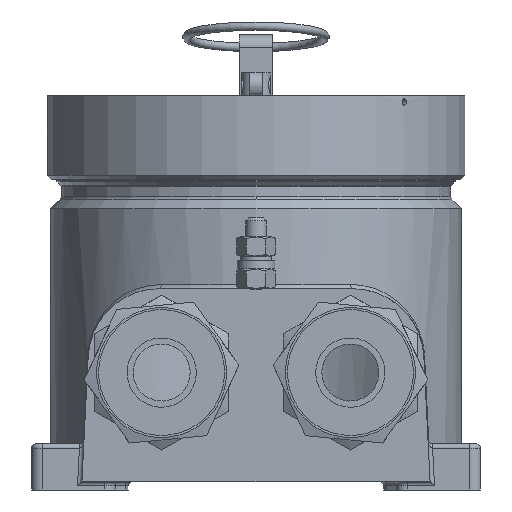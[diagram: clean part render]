
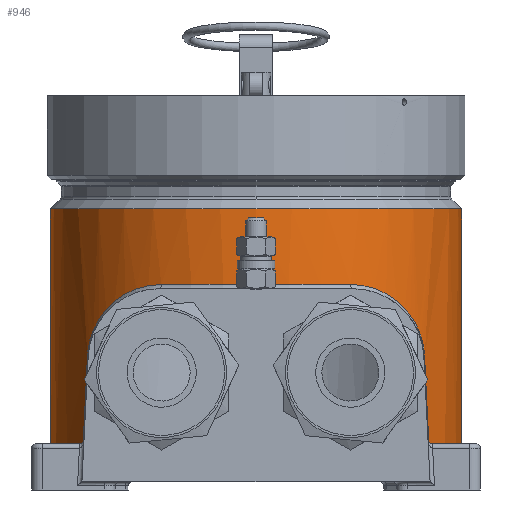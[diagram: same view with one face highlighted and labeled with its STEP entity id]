
A CAD part, left-side view. The second image highlights one B-rep face of the part: STEP entity #946.
In plain terms, the highlighted cylindrical face has radius 49 mm (diameter 98 mm), a full revolution.
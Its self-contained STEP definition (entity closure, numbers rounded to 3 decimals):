
#946=ADVANCED_FACE('',(#16318,#16320),#16322,.T.);
#16318=FACE_BOUND('',#16319,.T.);
#16319=EDGE_LOOP('',(#28817,#28818,#28819,#28820,#28821,#28822,#28823,#28824,#28825,
#28826,#28827));
#16320=FACE_OUTER_BOUND('',#16321,.T.);
#16321=EDGE_LOOP('',(#28828));
#16322=CYLINDRICAL_SURFACE('',#16323,49.);
#16323=AXIS2_PLACEMENT_3D('',#16324,#16325,#16326);
#16324=CARTESIAN_POINT('',(0.,0.,8.));
#16325=DIRECTION('',(0.,0.,1.));
#16326=DIRECTION('',(-1.,0.,0.));
#28817=ORIENTED_EDGE('',*,*,#37600,.F.);
#28818=ORIENTED_EDGE('',*,*,#37601,.T.);
#28819=ORIENTED_EDGE('',*,*,#37602,.F.);
#28820=ORIENTED_EDGE('',*,*,#37372,.F.);
#28821=ORIENTED_EDGE('',*,*,#37487,.F.);
#28822=ORIENTED_EDGE('',*,*,#37486,.F.);
#28823=ORIENTED_EDGE('',*,*,#37483,.F.);
#28824=ORIENTED_EDGE('',*,*,#37603,.F.);
#28825=ORIENTED_EDGE('',*,*,#37604,.T.);
#28826=ORIENTED_EDGE('',*,*,#37605,.F.);
#28827=ORIENTED_EDGE('',*,*,#37606,.T.);
#28828=ORIENTED_EDGE('',*,*,#37607,.T.);
#37372=EDGE_CURVE('',#41911,#41912,#41913,.T.);
#37483=EDGE_CURVE('',#42096,#42097,#42098,.T.);
#37486=EDGE_CURVE('',#42097,#42101,#42102,.F.);
#37487=EDGE_CURVE('',#42101,#41911,#42103,.F.);
#37600=EDGE_CURVE('',#42293,#42294,#42295,.F.);
#37601=EDGE_CURVE('',#42293,#42296,#42297,.T.);
#37602=EDGE_CURVE('',#41912,#42296,#42298,.F.);
#37603=EDGE_CURVE('',#42299,#42096,#42300,.F.);
#37604=EDGE_CURVE('',#42299,#42301,#42302,.T.);
#37605=EDGE_CURVE('',#42303,#42301,#42304,.F.);
#37606=EDGE_CURVE('',#42303,#42294,#42305,.T.);
#37607=EDGE_CURVE('',#42306,#42306,#42307,.F.);
#41911=VERTEX_POINT('',#50082);
#41912=VERTEX_POINT('',#50083);
#41913=B_SPLINE_CURVE_WITH_KNOTS('',3,
(#50084,#50085,#50086,#50087,#50088,#50089,#50090,#50091,#50092,#50093,#50094,#50095,
#50096,#50097,#50098,#50099,#50100,#50101,#50102,#50103,#50104),
.UNSPECIFIED.,.F.,.F.,
(4,1,1,1,1,1,1,1,1,1,1,1,1,1,1,1,1,1,4),
(0.,0.091,0.177,0.256,0.326,0.392,
0.455,0.516,0.573,0.628,0.678,
0.724,0.769,0.814,0.856,0.896,
0.938,0.972,1.),
.UNSPECIFIED.);
#42096=VERTEX_POINT('',#51006);
#42097=VERTEX_POINT('',#51007);
#42098=B_SPLINE_CURVE_WITH_KNOTS('',3,
(#51008,#51009,#51010,#51011,#51012,#51013,#51014,#51015,#51016,#51017,#51018,#51019,
#51020,#51021,#51022,#51023,#51024,#51025,#51026,#51027,#51028,#51029,#51030,#51031,
#51032,#51033,#51034),
.UNSPECIFIED.,.F.,.F.,
(4,1,1,1,1,1,1,1,1,1,1,1,1,1,1,1,1,1,1,1,1,1,1,1,4),
(0.,0.009,0.018,0.026,0.034,
0.045,0.061,0.084,0.114,0.152,
0.192,0.237,0.283,0.332,0.386,
0.442,0.504,0.569,0.637,0.708,
0.779,0.846,0.919,0.969,1.),
.UNSPECIFIED.);
#42101=VERTEX_POINT('',#51046);
#42102=CIRCLE('',#51047,49.);
#42103=CIRCLE('',#51051,49.);
#42293=VERTEX_POINT('',#51742);
#42294=VERTEX_POINT('',#51743);
#42295=CIRCLE('',#51744,49.);
#42296=VERTEX_POINT('',#51748);
#42297=CIRCLE('',#51749,49.);
#42298=(BOUNDED_CURVE()B_SPLINE_CURVE(3,
(#51753,#51754,#51755,#51756),
.UNSPECIFIED.,.F.,.F.)B_SPLINE_CURVE_WITH_KNOTS((4,4),
(0.,1.),
.UNSPECIFIED.)CURVE()GEOMETRIC_REPRESENTATION_ITEM()RATIONAL_B_SPLINE_CURVE((1.,
1.,1.,1.))REPRESENTATION_ITEM(''));
#42299=VERTEX_POINT('',#51757);
#42300=(BOUNDED_CURVE()B_SPLINE_CURVE(3,
(#51758,#51759,#51760,#51761),
.UNSPECIFIED.,.F.,.F.)B_SPLINE_CURVE_WITH_KNOTS((4,4),
(0.,1.),
.UNSPECIFIED.)CURVE()GEOMETRIC_REPRESENTATION_ITEM()RATIONAL_B_SPLINE_CURVE((1.,
1.,1.,1.))REPRESENTATION_ITEM(''));
#42301=VERTEX_POINT('',#51762);
#42302=CIRCLE('',#51763,49.);
#42303=VERTEX_POINT('',#51767);
#42304=CIRCLE('',#51768,49.);
#42305=CIRCLE('',#51772,49.);
#42306=VERTEX_POINT('',#51776);
#42307=CIRCLE('',#51777,49.);
#50082=CARTESIAN_POINT('',(-43.493,22.568,47.));
#50083=CARTESIAN_POINT('',(-28.037,40.186,29.899));
#50084=CARTESIAN_POINT('',(-43.493,22.568,47.));
#50085=CARTESIAN_POINT('',(-43.054,23.416,47.));
#50086=CARTESIAN_POINT('',(-42.151,25.037,46.879));
#50087=CARTESIAN_POINT('',(-40.74,27.264,46.397));
#50088=CARTESIAN_POINT('',(-39.377,29.19,45.722));
#50089=CARTESIAN_POINT('',(-38.089,30.846,44.927));
#50090=CARTESIAN_POINT('',(-36.872,32.289,44.051));
#50091=CARTESIAN_POINT('',(-35.702,33.576,43.095));
#50092=CARTESIAN_POINT('',(-34.586,34.721,42.076));
#50093=CARTESIAN_POINT('',(-33.534,35.737,41.006));
#50094=CARTESIAN_POINT('',(-32.569,36.617,39.915));
#50095=CARTESIAN_POINT('',(-31.705,37.365,38.827));
#50096=CARTESIAN_POINT('',(-30.93,38.009,37.734));
#50097=CARTESIAN_POINT('',(-30.23,38.566,36.618));
#50098=CARTESIAN_POINT('',(-29.605,39.048,35.461));
#50099=CARTESIAN_POINT('',(-29.076,39.443,34.293));
#50100=CARTESIAN_POINT('',(-28.639,39.76,33.094));
#50101=CARTESIAN_POINT('',(-28.322,39.986,31.927));
#50102=CARTESIAN_POINT('',(-28.127,40.124,30.85));
#50103=CARTESIAN_POINT('',(-28.057,40.172,30.193));
#50104=CARTESIAN_POINT('',(-28.037,40.186,29.899));
#51006=CARTESIAN_POINT('',(-28.037,-40.186,29.899));
#51007=CARTESIAN_POINT('',(-43.493,-22.568,47.));
#51008=CARTESIAN_POINT('',(-28.037,-40.186,29.899));
#51009=CARTESIAN_POINT('',(-28.047,-40.179,29.999));
#51010=CARTESIAN_POINT('',(-28.064,-40.167,30.187));
#51011=CARTESIAN_POINT('',(-28.09,-40.149,30.458));
#51012=CARTESIAN_POINT('',(-28.119,-40.129,30.719));
#51013=CARTESIAN_POINT('',(-28.161,-40.099,31.006));
#51014=CARTESIAN_POINT('',(-28.222,-40.056,31.369));
#51015=CARTESIAN_POINT('',(-28.325,-39.984,31.883));
#51016=CARTESIAN_POINT('',(-28.497,-39.862,32.583));
#51017=CARTESIAN_POINT('',(-28.776,-39.661,33.487));
#51018=CARTESIAN_POINT('',(-29.175,-39.369,34.525));
#51019=CARTESIAN_POINT('',(-29.697,-38.978,35.642));
#51020=CARTESIAN_POINT('',(-30.326,-38.491,36.781));
#51021=CARTESIAN_POINT('',(-31.054,-37.908,37.92));
#51022=CARTESIAN_POINT('',(-31.881,-37.216,39.06));
#51023=CARTESIAN_POINT('',(-32.802,-36.409,40.191));
#51024=CARTESIAN_POINT('',(-33.828,-35.46,41.318));
#51025=CARTESIAN_POINT('',(-34.946,-34.361,42.419));
#51026=CARTESIAN_POINT('',(-36.15,-33.096,43.477));
#51027=CARTESIAN_POINT('',(-37.405,-31.673,44.451));
#51028=CARTESIAN_POINT('',(-38.679,-30.106,45.309));
#51029=CARTESIAN_POINT('',(-39.916,-28.446,46.005));
#51030=CARTESIAN_POINT('',(-41.124,-26.672,46.54));
#51031=CARTESIAN_POINT('',(-42.158,-24.999,46.856));
#51032=CARTESIAN_POINT('',(-42.947,-23.603,46.981));
#51033=CARTESIAN_POINT('',(-43.344,-22.855,47.));
#51034=CARTESIAN_POINT('',(-43.493,-22.568,47.));
#51046=CARTESIAN_POINT('',(-49.,0.,47.));
#51047=AXIS2_PLACEMENT_3D('',#51048,#51049,#51050);
#51048=CARTESIAN_POINT('',(0.,0.,47.));
#51049=DIRECTION('',(0.,0.,1.));
#51050=DIRECTION('',(-1.,0.,0.));
#51051=AXIS2_PLACEMENT_3D('',#51052,#51053,#51054);
#51052=CARTESIAN_POINT('',(0.,0.,47.));
#51053=DIRECTION('',(0.,0.,1.));
#51054=DIRECTION('',(-0.888,0.461,0.));
#51742=CARTESIAN_POINT('',(27.695,40.423,9.));
#51743=CARTESIAN_POINT('',(40.423,27.695,9.));
#51744=AXIS2_PLACEMENT_3D('',#51745,#51746,#51747);
#51745=CARTESIAN_POINT('',(0.,0.,9.));
#51746=DIRECTION('',(0.,0.,1.));
#51747=DIRECTION('',(0.825,0.565,0.));
#51748=CARTESIAN_POINT('',(-26.509,41.21,9.));
#51749=AXIS2_PLACEMENT_3D('',#51750,#51751,#51752);
#51750=CARTESIAN_POINT('',(0.,0.,9.));
#51751=DIRECTION('',(0.,0.,1.));
#51752=DIRECTION('',(0.565,0.825,0.));
#51753=CARTESIAN_POINT('',(-26.509,41.21,9.));
#51754=CARTESIAN_POINT('',(-27.025,40.878,15.771));
#51755=CARTESIAN_POINT('',(-27.534,40.537,22.738));
#51756=CARTESIAN_POINT('',(-28.037,40.186,29.899));
#51757=CARTESIAN_POINT('',(-26.509,-41.21,9.));
#51758=CARTESIAN_POINT('',(-28.037,-40.186,29.899));
#51759=CARTESIAN_POINT('',(-27.534,-40.537,22.738));
#51760=CARTESIAN_POINT('',(-27.025,-40.878,15.771));
#51761=CARTESIAN_POINT('',(-26.509,-41.21,9.));
#51762=CARTESIAN_POINT('',(27.695,-40.423,9.));
#51763=AXIS2_PLACEMENT_3D('',#51764,#51765,#51766);
#51764=CARTESIAN_POINT('',(0.,0.,9.));
#51765=DIRECTION('',(0.,0.,1.));
#51766=DIRECTION('',(-0.541,-0.841,0.));
#51767=CARTESIAN_POINT('',(40.423,-27.695,9.));
#51768=AXIS2_PLACEMENT_3D('',#51769,#51770,#51771);
#51769=CARTESIAN_POINT('',(0.,0.,9.));
#51770=DIRECTION('',(0.,0.,1.));
#51771=DIRECTION('',(0.565,-0.825,0.));
#51772=AXIS2_PLACEMENT_3D('',#51773,#51774,#51775);
#51773=CARTESIAN_POINT('',(0.,0.,9.));
#51774=DIRECTION('',(0.,0.,1.));
#51775=DIRECTION('',(0.825,-0.565,0.));
#51776=CARTESIAN_POINT('',(-49.,0.,65.));
#51777=AXIS2_PLACEMENT_3D('',#51778,#51779,#51780);
#51778=CARTESIAN_POINT('',(0.,0.,65.));
#51779=DIRECTION('',(0.,0.,1.));
#51780=DIRECTION('',(-1.,0.,0.));
